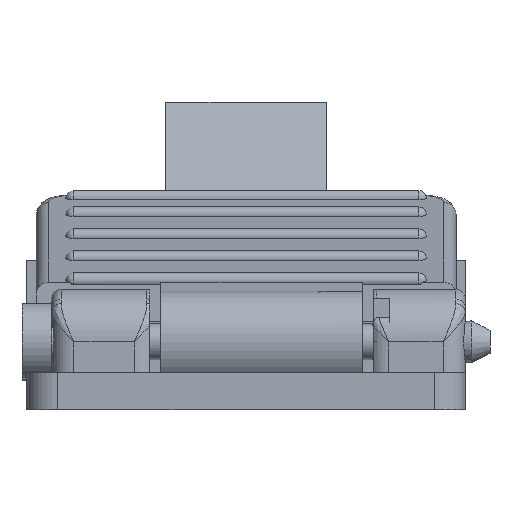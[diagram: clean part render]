
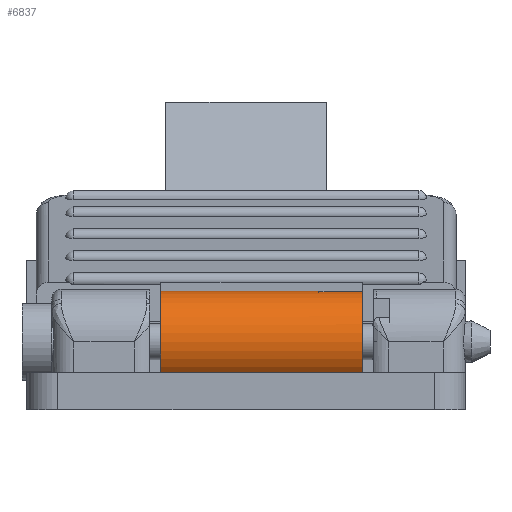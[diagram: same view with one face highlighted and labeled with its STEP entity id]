
A CAD part, front view. The second image highlights one B-rep face of the part: STEP entity #6837.
In plain terms, the highlighted cylindrical face has radius 4.1 mm (diameter 8.2 mm), a partial arc.
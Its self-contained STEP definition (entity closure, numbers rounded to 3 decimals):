
#6598 = VERTEX_POINT('',#6599);
#6599 = CARTESIAN_POINT('',(-199.15,-113.,-0.65));
#6606 = EDGE_CURVE('',#6598,#6607,#6609,.T.);
#6607 = VERTEX_POINT('',#6608);
#6608 = CARTESIAN_POINT('',(-186.35,-113.,-0.65));
#6609 = LINE('',#6610,#6611);
#6610 = CARTESIAN_POINT('',(-199.15,-113.,-0.65));
#6611 = VECTOR('',#6612,1.);
#6612 = DIRECTION('',(1.,0.,0.));
#6663 = EDGE_CURVE('',#6598,#6664,#6666,.T.);
#6664 = VERTEX_POINT('',#6665);
#6665 = CARTESIAN_POINT('',(-199.15,-109.16,-3.314));
#6666 = CIRCLE('',#6667,4.1);
#6667 = AXIS2_PLACEMENT_3D('',#6668,#6669,#6670);
#6668 = CARTESIAN_POINT('',(-199.15,-113.,-4.75));
#6669 = DIRECTION('',(1.,0.,0.));
#6670 = DIRECTION('',(-0.,0.,1.));
#6801 = VERTEX_POINT('',#6802);
#6802 = CARTESIAN_POINT('',(-186.35,-113.7,-0.71));
#6826 = EDGE_CURVE('',#6607,#6801,#6827,.T.);
#6827 = CIRCLE('',#6828,4.1);
#6828 = AXIS2_PLACEMENT_3D('',#6829,#6830,#6831);
#6829 = CARTESIAN_POINT('',(-186.35,-113.,-4.75));
#6830 = DIRECTION('',(1.,0.,0.));
#6831 = DIRECTION('',(-0.,0.,1.));
#6837 = ADVANCED_FACE('',(#6838),#6866,.T.);
#6838 = FACE_BOUND('',#6839,.T.);
#6839 = EDGE_LOOP('',(#6840,#6851,#6857,#6858,#6859,#6860));
#6840 = ORIENTED_EDGE('',*,*,#6841,.F.);
#6841 = EDGE_CURVE('',#6842,#6844,#6846,.T.);
#6842 = VERTEX_POINT('',#6843);
#6843 = CARTESIAN_POINT('',(-182.85,-113.7,-0.71));
#6844 = VERTEX_POINT('',#6845);
#6845 = CARTESIAN_POINT('',(-182.85,-109.16,-3.314));
#6846 = CIRCLE('',#6847,4.1);
#6847 = AXIS2_PLACEMENT_3D('',#6848,#6849,#6850);
#6848 = CARTESIAN_POINT('',(-182.85,-113.,-4.75));
#6849 = DIRECTION('',(1.,0.,0.));
#6850 = DIRECTION('',(-0.,0.,1.));
#6851 = ORIENTED_EDGE('',*,*,#6852,.F.);
#6852 = EDGE_CURVE('',#6801,#6842,#6853,.T.);
#6853 = LINE('',#6854,#6855);
#6854 = CARTESIAN_POINT('',(-199.15,-113.7,-0.71));
#6855 = VECTOR('',#6856,1.);
#6856 = DIRECTION('',(1.,0.,0.));
#6857 = ORIENTED_EDGE('',*,*,#6826,.F.);
#6858 = ORIENTED_EDGE('',*,*,#6606,.F.);
#6859 = ORIENTED_EDGE('',*,*,#6663,.T.);
#6860 = ORIENTED_EDGE('',*,*,#6861,.T.);
#6861 = EDGE_CURVE('',#6664,#6844,#6862,.T.);
#6862 = LINE('',#6863,#6864);
#6863 = CARTESIAN_POINT('',(-199.15,-109.16,-3.314));
#6864 = VECTOR('',#6865,1.);
#6865 = DIRECTION('',(1.,0.,0.));
#6866 = CYLINDRICAL_SURFACE('',#6867,4.1);
#6867 = AXIS2_PLACEMENT_3D('',#6868,#6869,#6870);
#6868 = CARTESIAN_POINT('',(-199.15,-113.,-4.75));
#6869 = DIRECTION('',(1.,0.,0.));
#6870 = DIRECTION('',(-0.,0.,1.));
